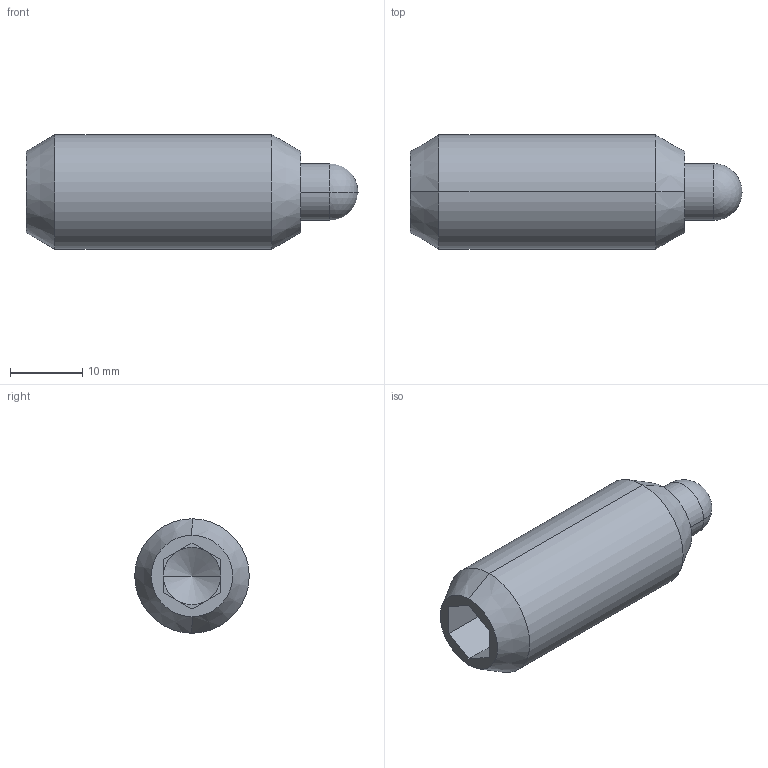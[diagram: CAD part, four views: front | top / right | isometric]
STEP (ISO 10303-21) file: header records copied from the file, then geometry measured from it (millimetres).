
FILE_DESCRIPTION (( 'STEP AP203' ), '1' );
FILE_NAME ('3B20.W282.step', '2009-10-12T14:01:13', ( 'Wixroyd' ), ( 'Wixroyd' ), 'SwSTEP 2.0', 'SolidWorks 2009', '' );
FILE_SCHEMA (( 'CONFIG_CONTROL_DESIGN' ));
Length unit declared in the file: inch
Products named in the file (3): Part1_3B20.W282; Part2_3B20.W282; 3B20.W282
Assembly tree (2 placements, depth 2):
  3B20.W282
    Part2_3B20.W282
    Part1_3B20.W282
Bounding box: 46.05 x 15.88 x 15.88 mm (x, y, z)
Volume: 5365.9 mm3; surface area: 3854.3 mm2
Topology: 2 solids, 2 shells, 43 faces, 92 edges, 52 vertices
Faces by surface type: plane 17, cylinder 12, cone 12, sphere 2
Entity records: 1413 total; most frequent: DIRECTION 220, CARTESIAN_POINT 184, ORIENTED_EDGE 172, EDGE_CURVE 86, AXIS2_PLACEMENT_3D 86, VERTEX_POINT 50, VECTOR 48, LINE 48
